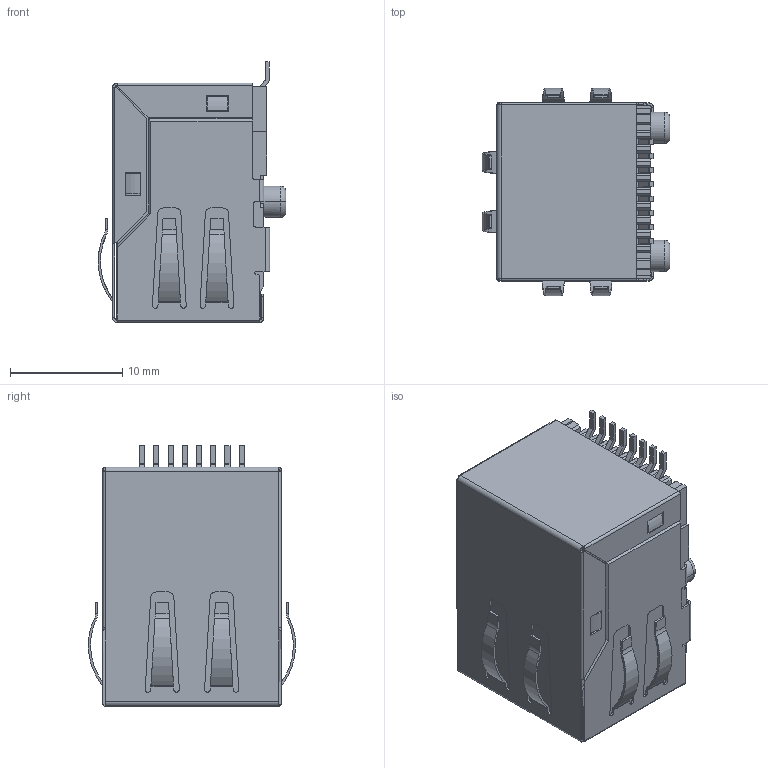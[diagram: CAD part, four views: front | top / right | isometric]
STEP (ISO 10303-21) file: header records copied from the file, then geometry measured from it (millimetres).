
FILE_DESCRIPTION((''),'2;1');
FILE_NAME('DGKYD111B002HWA7S057_ASM','2020-01-02T15:09:34',('Administrator'),(''),'CREO PARAMETRIC BY PTC INC, 2018400','CREO PARAMETRIC BY PTC INC, 2018400','');
FILE_SCHEMA(('CONFIG_CONTROL_DESIGN'));
Length unit declared in the file: millimetre
Products named in the file (6): T; SU; CAX; Y; Z; DGKYD111B002HWA7S057_ASM
Assembly tree (19 placements, depth 2):
  DGKYD111B002HWA7S057_ASM
    T
    SU
    CAX
    Y  x8
    Z  x8
Bounding box: 16.75 x 18.49 x 23.25 mm (x, y, z)
Volume: 1987.4 mm3; surface area: 6797.9 mm2
Topology: 19 solids, 19 shells, 1022 faces, 2705 edges, 1706 vertices
Faces by surface type: plane 740, cylinder 228, bspline 50, torus 4
Entity records: 26973 total; most frequent: CARTESIAN_POINT 6415, ORIENTED_EDGE 4402, DIRECTION 3945, EDGE_CURVE 2201, VECTOR 1823, LINE 1823, VERTEX_POINT 1370, AXIS2_PLACEMENT_3D 1061
